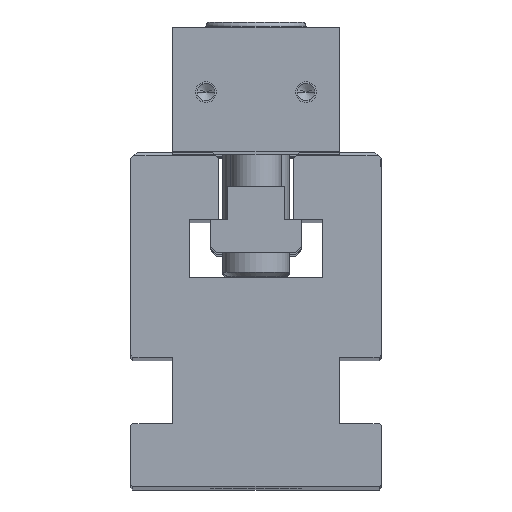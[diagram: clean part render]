
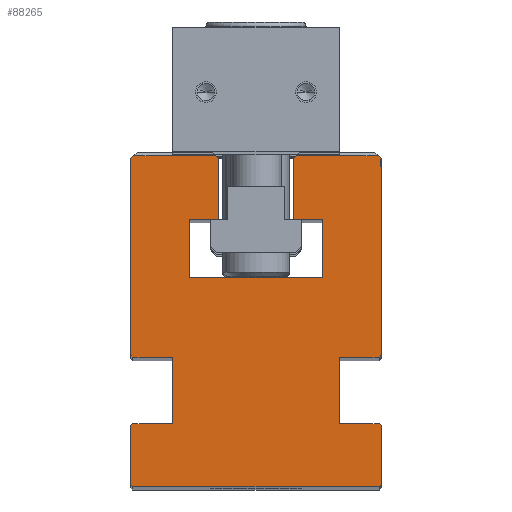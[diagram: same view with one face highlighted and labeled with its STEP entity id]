
A CAD part, top view. The second image highlights one B-rep face of the part: STEP entity #88265.
In plain terms, the highlighted planar face has unit normal (0, 0, 1).
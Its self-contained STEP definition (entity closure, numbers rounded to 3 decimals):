
#146=DIRECTION('',(-0.707,-0.707,0.));
#147=VECTOR('',#146,0.707);
#148=CARTESIAN_POINT('',(0.5,15.,500.));
#149=LINE('',#148,#147);
#150=DIRECTION('',(1.,0.,0.));
#151=VECTOR('',#150,9.5);
#152=CARTESIAN_POINT('',(0.5,15.,500.));
#153=LINE('',#152,#151);
#154=DIRECTION('',(0.,-1.,0.));
#155=VECTOR('',#154,16.);
#156=CARTESIAN_POINT('',(10.,31.,500.));
#157=LINE('',#156,#155);
#158=DIRECTION('',(1.,0.,0.));
#159=VECTOR('',#158,9.5);
#160=CARTESIAN_POINT('',(0.5,31.,500.));
#161=LINE('',#160,#159);
#162=DIRECTION('',(0.707,-0.707,0.));
#163=VECTOR('',#162,0.707);
#164=CARTESIAN_POINT('',(0.,31.5,500.));
#165=LINE('',#164,#163);
#166=DIRECTION('',(0.,-1.,0.));
#167=VECTOR('',#166,47.);
#168=CARTESIAN_POINT('',(0.,78.5,500.));
#169=LINE('',#168,#167);
#170=DIRECTION('',(0.707,0.707,0.));
#171=VECTOR('',#170,1.061);
#172=CARTESIAN_POINT('',(0.,78.5,500.));
#173=LINE('',#172,#171);
#174=DIRECTION('',(1.,0.,0.));
#175=VECTOR('',#174,19.5);
#176=CARTESIAN_POINT('',(0.75,79.25,500.));
#177=LINE('',#176,#175);
#178=DIRECTION('',(0.707,-0.707,0.));
#179=VECTOR('',#178,1.061);
#180=CARTESIAN_POINT('',(20.25,79.25,500.));
#181=LINE('',#180,#179);
#182=DIRECTION('',(0.,-1.,0.));
#183=VECTOR('',#182,14.5);
#184=CARTESIAN_POINT('',(21.,78.5,500.));
#185=LINE('',#184,#183);
#186=DIRECTION('',(1.,0.,0.));
#187=VECTOR('',#186,7.);
#188=CARTESIAN_POINT('',(14.,64.,500.));
#189=LINE('',#188,#187);
#190=DIRECTION('',(0.,1.,0.));
#191=VECTOR('',#190,14.);
#192=CARTESIAN_POINT('',(14.,50.,500.));
#193=LINE('',#192,#191);
#194=DIRECTION('',(-1.,0.,0.));
#195=VECTOR('',#194,32.);
#196=CARTESIAN_POINT('',(46.,50.,500.));
#197=LINE('',#196,#195);
#198=DIRECTION('',(0.,-1.,0.));
#199=VECTOR('',#198,14.);
#200=CARTESIAN_POINT('',(46.,64.,500.));
#201=LINE('',#200,#199);
#202=DIRECTION('',(1.,0.,0.));
#203=VECTOR('',#202,7.);
#204=CARTESIAN_POINT('',(39.,64.,500.));
#205=LINE('',#204,#203);
#206=DIRECTION('',(0.,-1.,0.));
#207=VECTOR('',#206,14.5);
#208=CARTESIAN_POINT('',(39.,78.5,500.));
#209=LINE('',#208,#207);
#210=DIRECTION('',(-0.707,-0.707,0.));
#211=VECTOR('',#210,1.061);
#212=CARTESIAN_POINT('',(39.75,79.25,500.));
#213=LINE('',#212,#211);
#214=DIRECTION('',(1.,0.,0.));
#215=VECTOR('',#214,19.5);
#216=CARTESIAN_POINT('',(39.75,79.25,500.));
#217=LINE('',#216,#215);
#218=DIRECTION('',(-0.707,0.707,0.));
#219=VECTOR('',#218,1.061);
#220=CARTESIAN_POINT('',(60.,78.5,500.));
#221=LINE('',#220,#219);
#222=DIRECTION('',(0.,1.,0.));
#223=VECTOR('',#222,47.);
#224=CARTESIAN_POINT('',(60.,31.5,500.));
#225=LINE('',#224,#223);
#226=DIRECTION('',(0.707,0.707,0.));
#227=VECTOR('',#226,0.707);
#228=CARTESIAN_POINT('',(59.5,31.,500.));
#229=LINE('',#228,#227);
#230=DIRECTION('',(-1.,0.,0.));
#231=VECTOR('',#230,9.5);
#232=CARTESIAN_POINT('',(59.5,31.,500.));
#233=LINE('',#232,#231);
#234=DIRECTION('',(0.,1.,0.));
#235=VECTOR('',#234,16.);
#236=CARTESIAN_POINT('',(50.,15.,500.));
#237=LINE('',#236,#235);
#238=DIRECTION('',(-1.,0.,0.));
#239=VECTOR('',#238,9.5);
#240=CARTESIAN_POINT('',(59.5,15.,500.));
#241=LINE('',#240,#239);
#242=DIRECTION('',(-0.707,0.707,0.));
#243=VECTOR('',#242,0.707);
#244=CARTESIAN_POINT('',(60.,14.5,500.));
#245=LINE('',#244,#243);
#246=DIRECTION('',(0.,1.,0.));
#247=VECTOR('',#246,14.);
#248=CARTESIAN_POINT('',(60.,0.5,500.));
#249=LINE('',#248,#247);
#250=DIRECTION('',(0.707,0.707,0.));
#251=VECTOR('',#250,0.707);
#252=CARTESIAN_POINT('',(59.5,0.,500.));
#253=LINE('',#252,#251);
#254=DIRECTION('',(1.,0.,0.));
#255=VECTOR('',#254,59.);
#256=CARTESIAN_POINT('',(0.5,0.,500.));
#257=LINE('',#256,#255);
#258=DIRECTION('',(0.707,-0.707,0.));
#259=VECTOR('',#258,0.707);
#260=CARTESIAN_POINT('',(0.,0.5,500.));
#261=LINE('',#260,#259);
#262=DIRECTION('',(0.,-1.,0.));
#263=VECTOR('',#262,14.);
#264=CARTESIAN_POINT('',(0.,14.5,500.));
#265=LINE('',#264,#263);
#66076=CARTESIAN_POINT('',(14.,50.,500.));
#66077=CARTESIAN_POINT('',(14.,64.,500.));
#66078=VERTEX_POINT('',#66076);
#66079=VERTEX_POINT('',#66077);
#66080=CARTESIAN_POINT('',(21.,64.,500.));
#66081=VERTEX_POINT('',#66080);
#66082=CARTESIAN_POINT('',(39.,64.,500.));
#66083=CARTESIAN_POINT('',(46.,64.,500.));
#66084=VERTEX_POINT('',#66082);
#66085=VERTEX_POINT('',#66083);
#66086=CARTESIAN_POINT('',(46.,50.,500.));
#66087=VERTEX_POINT('',#66086);
#66096=CARTESIAN_POINT('',(10.,31.,500.));
#66097=CARTESIAN_POINT('',(10.,15.,500.));
#66098=VERTEX_POINT('',#66096);
#66099=VERTEX_POINT('',#66097);
#66100=CARTESIAN_POINT('',(50.,15.,500.));
#66101=CARTESIAN_POINT('',(50.,31.,500.));
#66102=VERTEX_POINT('',#66100);
#66103=VERTEX_POINT('',#66101);
#79952=CARTESIAN_POINT('',(60.,78.5,500.));
#79953=CARTESIAN_POINT('',(59.25,79.25,500.));
#79954=VERTEX_POINT('',#79952);
#79955=VERTEX_POINT('',#79953);
#79956=CARTESIAN_POINT('',(39.75,79.25,500.));
#79957=CARTESIAN_POINT('',(39.,78.5,500.));
#79958=VERTEX_POINT('',#79956);
#79959=VERTEX_POINT('',#79957);
#84972=CARTESIAN_POINT('',(0.,78.5,500.));
#84973=CARTESIAN_POINT('',(0.75,79.25,500.));
#84974=VERTEX_POINT('',#84972);
#84975=VERTEX_POINT('',#84973);
#84976=CARTESIAN_POINT('',(20.25,79.25,500.));
#84977=CARTESIAN_POINT('',(21.,78.5,500.));
#84978=VERTEX_POINT('',#84976);
#84979=VERTEX_POINT('',#84977);
#88016=CARTESIAN_POINT('',(0.5,15.,500.));
#88017=VERTEX_POINT('',#88016);
#88018=CARTESIAN_POINT('',(0.,14.5,500.));
#88019=VERTEX_POINT('',#88018);
#88024=CARTESIAN_POINT('',(0.,0.5,500.));
#88025=VERTEX_POINT('',#88024);
#88026=CARTESIAN_POINT('',(0.5,0.,500.));
#88027=VERTEX_POINT('',#88026);
#88028=CARTESIAN_POINT('',(0.,31.5,500.));
#88029=CARTESIAN_POINT('',(0.5,31.,500.));
#88030=VERTEX_POINT('',#88028);
#88031=VERTEX_POINT('',#88029);
#88036=CARTESIAN_POINT('',(60.,14.5,500.));
#88037=CARTESIAN_POINT('',(59.5,15.,500.));
#88038=VERTEX_POINT('',#88036);
#88039=VERTEX_POINT('',#88037);
#88048=CARTESIAN_POINT('',(59.5,0.,500.));
#88049=VERTEX_POINT('',#88048);
#88050=CARTESIAN_POINT('',(60.,0.5,500.));
#88051=VERTEX_POINT('',#88050);
#88056=CARTESIAN_POINT('',(59.5,31.,500.));
#88057=VERTEX_POINT('',#88056);
#88058=CARTESIAN_POINT('',(60.,31.5,500.));
#88059=VERTEX_POINT('',#88058);
#88203=CARTESIAN_POINT('',(0.,0.,500.));
#88204=DIRECTION('',(0.,0.,1.));
#88205=DIRECTION('',(1.,0.,0.));
#88206=AXIS2_PLACEMENT_3D('',#88203,#88204,#88205);
#88207=PLANE('',#88206);
#88208=ORIENTED_EDGE('',*,*,#88140,.F.);
#88209=ORIENTED_EDGE('',*,*,#88156,.T.);
#88210=ORIENTED_EDGE('',*,*,#88169,.F.);
#88211=ORIENTED_EDGE('',*,*,#88182,.F.);
#88212=ORIENTED_EDGE('',*,*,#88194,.F.);
#88214=ORIENTED_EDGE('',*,*,#88213,.F.);
#88216=ORIENTED_EDGE('',*,*,#88215,.T.);
#88218=ORIENTED_EDGE('',*,*,#88217,.T.);
#88220=ORIENTED_EDGE('',*,*,#88219,.T.);
#88222=ORIENTED_EDGE('',*,*,#88221,.T.);
#88224=ORIENTED_EDGE('',*,*,#88223,.F.);
#88226=ORIENTED_EDGE('',*,*,#88225,.F.);
#88228=ORIENTED_EDGE('',*,*,#88227,.F.);
#88230=ORIENTED_EDGE('',*,*,#88229,.F.);
#88232=ORIENTED_EDGE('',*,*,#88231,.F.);
#88234=ORIENTED_EDGE('',*,*,#88233,.F.);
#88236=ORIENTED_EDGE('',*,*,#88235,.F.);
#88238=ORIENTED_EDGE('',*,*,#88237,.T.);
#88240=ORIENTED_EDGE('',*,*,#88239,.F.);
#88242=ORIENTED_EDGE('',*,*,#88241,.F.);
#88244=ORIENTED_EDGE('',*,*,#88243,.F.);
#88246=ORIENTED_EDGE('',*,*,#88245,.T.);
#88248=ORIENTED_EDGE('',*,*,#88247,.F.);
#88250=ORIENTED_EDGE('',*,*,#88249,.F.);
#88252=ORIENTED_EDGE('',*,*,#88251,.F.);
#88254=ORIENTED_EDGE('',*,*,#88253,.F.);
#88256=ORIENTED_EDGE('',*,*,#88255,.F.);
#88258=ORIENTED_EDGE('',*,*,#88257,.F.);
#88260=ORIENTED_EDGE('',*,*,#88259,.F.);
#88262=ORIENTED_EDGE('',*,*,#88261,.F.);
#88263=EDGE_LOOP('',(#88208,#88209,#88210,#88211,#88212,#88214,#88216,#88218,
#88220,#88222,#88224,#88226,#88228,#88230,#88232,#88234,#88236,#88238,#88240,
#88242,#88244,#88246,#88248,#88250,#88252,#88254,#88256,#88258,#88260,#88262));
#88264=FACE_OUTER_BOUND('',#88263,.F.);
#88265=ADVANCED_FACE('',(#88264),#88207,.T.);
#88140=EDGE_CURVE('',#88017,#88019,#149,.T.);
#88156=EDGE_CURVE('',#88017,#66099,#153,.T.);
#88169=EDGE_CURVE('',#66098,#66099,#157,.T.);
#88182=EDGE_CURVE('',#88031,#66098,#161,.T.);
#88194=EDGE_CURVE('',#88030,#88031,#165,.T.);
#88213=EDGE_CURVE('',#84974,#88030,#169,.T.);
#88215=EDGE_CURVE('',#84974,#84975,#173,.T.);
#88217=EDGE_CURVE('',#84975,#84978,#177,.T.);
#88219=EDGE_CURVE('',#84978,#84979,#181,.T.);
#88221=EDGE_CURVE('',#84979,#66081,#185,.T.);
#88223=EDGE_CURVE('',#66079,#66081,#189,.T.);
#88225=EDGE_CURVE('',#66078,#66079,#193,.T.);
#88227=EDGE_CURVE('',#66087,#66078,#197,.T.);
#88229=EDGE_CURVE('',#66085,#66087,#201,.T.);
#88231=EDGE_CURVE('',#66084,#66085,#205,.T.);
#88233=EDGE_CURVE('',#79959,#66084,#209,.T.);
#88235=EDGE_CURVE('',#79958,#79959,#213,.T.);
#88237=EDGE_CURVE('',#79958,#79955,#217,.T.);
#88239=EDGE_CURVE('',#79954,#79955,#221,.T.);
#88241=EDGE_CURVE('',#88059,#79954,#225,.T.);
#88243=EDGE_CURVE('',#88057,#88059,#229,.T.);
#88245=EDGE_CURVE('',#88057,#66103,#233,.T.);
#88247=EDGE_CURVE('',#66102,#66103,#237,.T.);
#88249=EDGE_CURVE('',#88039,#66102,#241,.T.);
#88251=EDGE_CURVE('',#88038,#88039,#245,.T.);
#88253=EDGE_CURVE('',#88051,#88038,#249,.T.);
#88255=EDGE_CURVE('',#88049,#88051,#253,.T.);
#88257=EDGE_CURVE('',#88027,#88049,#257,.T.);
#88259=EDGE_CURVE('',#88025,#88027,#261,.T.);
#88261=EDGE_CURVE('',#88019,#88025,#265,.T.);
